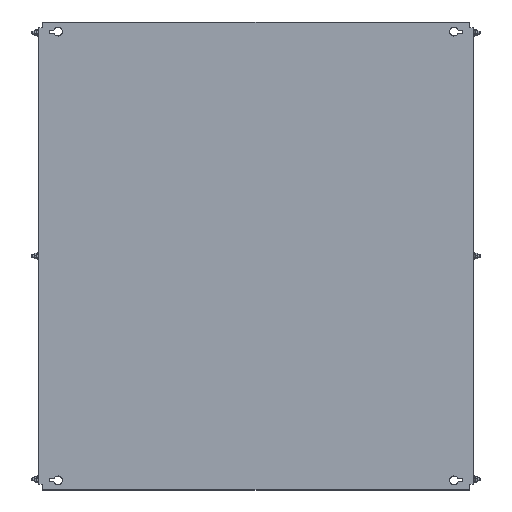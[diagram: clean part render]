
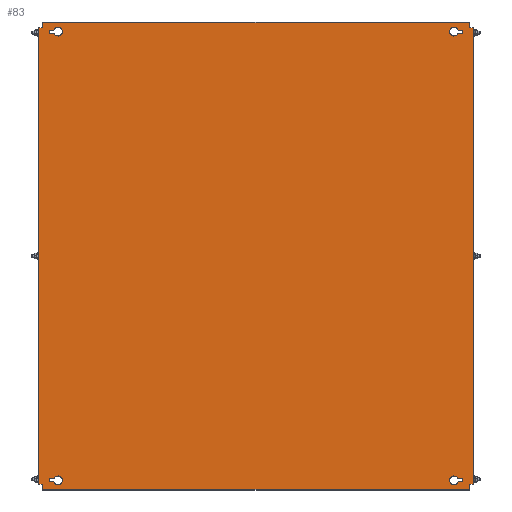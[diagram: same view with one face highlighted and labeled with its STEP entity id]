
A CAD part, top view. The second image highlights one B-rep face of the part: STEP entity #83.
In plain terms, the highlighted planar face has unit normal (0, 0, 1).
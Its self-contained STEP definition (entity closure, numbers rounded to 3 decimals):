
#83 = ADVANCED_FACE('',(#84,#119,#154,#316,#351),#386,.T.);
#84 = FACE_BOUND('',#85,.T.);
#85 = EDGE_LOOP('',(#86,#96,#104,#112));
#86 = ORIENTED_EDGE('',*,*,#87,.T.);
#87 = EDGE_CURVE('',#88,#90,#92,.T.);
#88 = VERTEX_POINT('',#89);
#89 = CARTESIAN_POINT('',(418.393,467.75,2.));
#90 = VERTEX_POINT('',#91);
#91 = CARTESIAN_POINT('',(428.,467.75,2.));
#92 = LINE('',#93,#94);
#93 = CARTESIAN_POINT('',(427.,467.75,2.));
#94 = VECTOR('',#95,1.);
#95 = DIRECTION('',(1.,0.,0.));
#96 = ORIENTED_EDGE('',*,*,#97,.T.);
#97 = EDGE_CURVE('',#90,#98,#100,.T.);
#98 = VERTEX_POINT('',#99);
#99 = CARTESIAN_POINT('',(428.,461.25,2.));
#100 = LINE('',#101,#102);
#101 = CARTESIAN_POINT('',(428.,467.75,2.));
#102 = VECTOR('',#103,1.);
#103 = DIRECTION('',(0.,-1.,0.));
#104 = ORIENTED_EDGE('',*,*,#105,.T.);
#105 = EDGE_CURVE('',#98,#106,#108,.T.);
#106 = VERTEX_POINT('',#107);
#107 = CARTESIAN_POINT('',(418.393,461.25,2.));
#108 = LINE('',#109,#110);
#109 = CARTESIAN_POINT('',(427.,461.25,2.));
#110 = VECTOR('',#111,1.);
#111 = DIRECTION('',(-1.,0.,0.));
#112 = ORIENTED_EDGE('',*,*,#113,.T.);
#113 = EDGE_CURVE('',#106,#88,#114,.T.);
#114 = CIRCLE('',#115,9.);
#115 = AXIS2_PLACEMENT_3D('',#116,#117,#118);
#116 = CARTESIAN_POINT('',(410.,464.5,2.));
#117 = DIRECTION('',(0.,0.,-1.));
#118 = DIRECTION('',(1.,0.,0.));
#119 = FACE_BOUND('',#120,.T.);
#120 = EDGE_LOOP('',(#121,#131,#139,#147));
#121 = ORIENTED_EDGE('',*,*,#122,.T.);
#122 = EDGE_CURVE('',#123,#125,#127,.T.);
#123 = VERTEX_POINT('',#124);
#124 = CARTESIAN_POINT('',(-418.393,-467.75,2.));
#125 = VERTEX_POINT('',#126);
#126 = CARTESIAN_POINT('',(-428.,-467.75,2.));
#127 = LINE('',#128,#129);
#128 = CARTESIAN_POINT('',(-427.,-467.75,2.));
#129 = VECTOR('',#130,1.);
#130 = DIRECTION('',(-1.,0.,0.));
#131 = ORIENTED_EDGE('',*,*,#132,.T.);
#132 = EDGE_CURVE('',#125,#133,#135,.T.);
#133 = VERTEX_POINT('',#134);
#134 = CARTESIAN_POINT('',(-428.,-461.25,2.));
#135 = LINE('',#136,#137);
#136 = CARTESIAN_POINT('',(-428.,-467.75,2.));
#137 = VECTOR('',#138,1.);
#138 = DIRECTION('',(0.,1.,0.));
#139 = ORIENTED_EDGE('',*,*,#140,.T.);
#140 = EDGE_CURVE('',#133,#141,#143,.T.);
#141 = VERTEX_POINT('',#142);
#142 = CARTESIAN_POINT('',(-418.393,-461.25,2.));
#143 = LINE('',#144,#145);
#144 = CARTESIAN_POINT('',(-427.,-461.25,2.));
#145 = VECTOR('',#146,1.);
#146 = DIRECTION('',(1.,-0.,-0.));
#147 = ORIENTED_EDGE('',*,*,#148,.T.);
#148 = EDGE_CURVE('',#141,#123,#149,.T.);
#149 = CIRCLE('',#150,9.);
#150 = AXIS2_PLACEMENT_3D('',#151,#152,#153);
#151 = CARTESIAN_POINT('',(-410.,-464.5,2.));
#152 = DIRECTION('',(0.,0.,-1.));
#153 = DIRECTION('',(-1.,0.,0.));
#154 = FACE_BOUND('',#155,.T.);
#155 = EDGE_LOOP('',(#156,#166,#174,#182,#190,#198,#206,#214,#222,#230,
    #238,#246,#254,#262,#270,#278,#286,#294,#302,#310));
#156 = ORIENTED_EDGE('',*,*,#157,.F.);
#157 = EDGE_CURVE('',#158,#160,#162,.T.);
#158 = VERTEX_POINT('',#159);
#159 = CARTESIAN_POINT('',(-447.4,472.5,2.));
#160 = VERTEX_POINT('',#161);
#161 = CARTESIAN_POINT('',(-442.,472.5,2.));
#162 = LINE('',#163,#164);
#163 = CARTESIAN_POINT('',(-448.,472.5,2.));
#164 = VECTOR('',#165,1.);
#165 = DIRECTION('',(1.,0.,-0.));
#166 = ORIENTED_EDGE('',*,*,#167,.T.);
#167 = EDGE_CURVE('',#158,#168,#170,.T.);
#168 = VERTEX_POINT('',#169);
#169 = CARTESIAN_POINT('',(-450.,472.5,2.));
#170 = LINE('',#171,#172);
#171 = CARTESIAN_POINT('',(-447.4,472.5,2.));
#172 = VECTOR('',#173,1.);
#173 = DIRECTION('',(-1.,0.,0.));
#174 = ORIENTED_EDGE('',*,*,#175,.F.);
#175 = EDGE_CURVE('',#176,#168,#178,.T.);
#176 = VERTEX_POINT('',#177);
#177 = CARTESIAN_POINT('',(-450.,-472.5,2.));
#178 = LINE('',#179,#180);
#179 = CARTESIAN_POINT('',(-450.,-482.5,2.));
#180 = VECTOR('',#181,1.);
#181 = DIRECTION('',(0.,1.,-0.));
#182 = ORIENTED_EDGE('',*,*,#183,.F.);
#183 = EDGE_CURVE('',#184,#176,#186,.T.);
#184 = VERTEX_POINT('',#185);
#185 = CARTESIAN_POINT('',(-447.4,-472.5,2.));
#186 = LINE('',#187,#188);
#187 = CARTESIAN_POINT('',(-442.,-472.5,2.));
#188 = VECTOR('',#189,1.);
#189 = DIRECTION('',(-1.,-0.,-0.));
#190 = ORIENTED_EDGE('',*,*,#191,.T.);
#191 = EDGE_CURVE('',#184,#192,#194,.T.);
#192 = VERTEX_POINT('',#193);
#193 = CARTESIAN_POINT('',(-442.,-472.5,2.));
#194 = LINE('',#195,#196);
#195 = CARTESIAN_POINT('',(-448.,-472.5,2.));
#196 = VECTOR('',#197,1.);
#197 = DIRECTION('',(1.,0.,-0.));
#198 = ORIENTED_EDGE('',*,*,#199,.T.);
#199 = EDGE_CURVE('',#192,#200,#202,.T.);
#200 = VERTEX_POINT('',#201);
#201 = CARTESIAN_POINT('',(-442.,-481.9,2.));
#202 = LINE('',#203,#204);
#203 = CARTESIAN_POINT('',(-442.,482.5,2.));
#204 = VECTOR('',#205,1.);
#205 = DIRECTION('',(0.,-1.,0.));
#206 = ORIENTED_EDGE('',*,*,#207,.T.);
#207 = EDGE_CURVE('',#200,#208,#210,.T.);
#208 = VERTEX_POINT('',#209);
#209 = CARTESIAN_POINT('',(-442.,-482.5,2.));
#210 = LINE('',#211,#212);
#211 = CARTESIAN_POINT('',(-442.,-481.9,2.));
#212 = VECTOR('',#213,1.);
#213 = DIRECTION('',(-0.,-1.,-0.));
#214 = ORIENTED_EDGE('',*,*,#215,.T.);
#215 = EDGE_CURVE('',#208,#216,#218,.T.);
#216 = VERTEX_POINT('',#217);
#217 = CARTESIAN_POINT('',(442.,-482.5,2.));
#218 = LINE('',#219,#220);
#219 = CARTESIAN_POINT('',(442.,-482.5,2.));
#220 = VECTOR('',#221,1.);
#221 = DIRECTION('',(1.,0.,0.));
#222 = ORIENTED_EDGE('',*,*,#223,.F.);
#223 = EDGE_CURVE('',#224,#216,#226,.T.);
#224 = VERTEX_POINT('',#225);
#225 = CARTESIAN_POINT('',(442.,-481.9,2.));
#226 = LINE('',#227,#228);
#227 = CARTESIAN_POINT('',(442.,-482.5,2.));
#228 = VECTOR('',#229,1.);
#229 = DIRECTION('',(0.,-1.,0.));
#230 = ORIENTED_EDGE('',*,*,#231,.T.);
#231 = EDGE_CURVE('',#224,#232,#234,.T.);
#232 = VERTEX_POINT('',#233);
#233 = CARTESIAN_POINT('',(442.,-472.5,2.));
#234 = LINE('',#235,#236);
#235 = CARTESIAN_POINT('',(442.,482.5,2.));
#236 = VECTOR('',#237,1.);
#237 = DIRECTION('',(0.,1.,-0.));
#238 = ORIENTED_EDGE('',*,*,#239,.F.);
#239 = EDGE_CURVE('',#240,#232,#242,.T.);
#240 = VERTEX_POINT('',#241);
#241 = CARTESIAN_POINT('',(447.4,-472.5,2.));
#242 = LINE('',#243,#244);
#243 = CARTESIAN_POINT('',(448.,-472.5,2.));
#244 = VECTOR('',#245,1.);
#245 = DIRECTION('',(-1.,0.,-0.));
#246 = ORIENTED_EDGE('',*,*,#247,.T.);
#247 = EDGE_CURVE('',#240,#248,#250,.T.);
#248 = VERTEX_POINT('',#249);
#249 = CARTESIAN_POINT('',(450.,-472.5,2.));
#250 = LINE('',#251,#252);
#251 = CARTESIAN_POINT('',(447.4,-472.5,2.));
#252 = VECTOR('',#253,1.);
#253 = DIRECTION('',(1.,-0.,0.));
#254 = ORIENTED_EDGE('',*,*,#255,.F.);
#255 = EDGE_CURVE('',#256,#248,#258,.T.);
#256 = VERTEX_POINT('',#257);
#257 = CARTESIAN_POINT('',(450.,472.5,2.));
#258 = LINE('',#259,#260);
#259 = CARTESIAN_POINT('',(450.,-482.5,2.));
#260 = VECTOR('',#261,1.);
#261 = DIRECTION('',(0.,-1.,-0.));
#262 = ORIENTED_EDGE('',*,*,#263,.F.);
#263 = EDGE_CURVE('',#264,#256,#266,.T.);
#264 = VERTEX_POINT('',#265);
#265 = CARTESIAN_POINT('',(447.4,472.5,2.));
#266 = LINE('',#267,#268);
#267 = CARTESIAN_POINT('',(-442.,472.5,2.));
#268 = VECTOR('',#269,1.);
#269 = DIRECTION('',(1.,-0.,0.));
#270 = ORIENTED_EDGE('',*,*,#271,.T.);
#271 = EDGE_CURVE('',#264,#272,#274,.T.);
#272 = VERTEX_POINT('',#273);
#273 = CARTESIAN_POINT('',(442.,472.5,2.));
#274 = LINE('',#275,#276);
#275 = CARTESIAN_POINT('',(448.,472.5,2.));
#276 = VECTOR('',#277,1.);
#277 = DIRECTION('',(-1.,0.,-0.));
#278 = ORIENTED_EDGE('',*,*,#279,.T.);
#279 = EDGE_CURVE('',#272,#280,#282,.T.);
#280 = VERTEX_POINT('',#281);
#281 = CARTESIAN_POINT('',(442.,481.9,2.));
#282 = LINE('',#283,#284);
#283 = CARTESIAN_POINT('',(442.,482.5,2.));
#284 = VECTOR('',#285,1.);
#285 = DIRECTION('',(0.,1.,-0.));
#286 = ORIENTED_EDGE('',*,*,#287,.T.);
#287 = EDGE_CURVE('',#280,#288,#290,.T.);
#288 = VERTEX_POINT('',#289);
#289 = CARTESIAN_POINT('',(442.,482.5,2.));
#290 = LINE('',#291,#292);
#291 = CARTESIAN_POINT('',(442.,481.9,2.));
#292 = VECTOR('',#293,1.);
#293 = DIRECTION('',(-0.,1.,-0.));
#294 = ORIENTED_EDGE('',*,*,#295,.T.);
#295 = EDGE_CURVE('',#288,#296,#298,.T.);
#296 = VERTEX_POINT('',#297);
#297 = CARTESIAN_POINT('',(-442.,482.5,2.));
#298 = LINE('',#299,#300);
#299 = CARTESIAN_POINT('',(-442.,482.5,2.));
#300 = VECTOR('',#301,1.);
#301 = DIRECTION('',(-1.,0.,0.));
#302 = ORIENTED_EDGE('',*,*,#303,.F.);
#303 = EDGE_CURVE('',#304,#296,#306,.T.);
#304 = VERTEX_POINT('',#305);
#305 = CARTESIAN_POINT('',(-442.,481.9,2.));
#306 = LINE('',#307,#308);
#307 = CARTESIAN_POINT('',(-442.,-482.5,2.));
#308 = VECTOR('',#309,1.);
#309 = DIRECTION('',(0.,1.,-0.));
#310 = ORIENTED_EDGE('',*,*,#311,.T.);
#311 = EDGE_CURVE('',#304,#160,#312,.T.);
#312 = LINE('',#313,#314);
#313 = CARTESIAN_POINT('',(-442.,482.5,2.));
#314 = VECTOR('',#315,1.);
#315 = DIRECTION('',(0.,-1.,0.));
#316 = FACE_BOUND('',#317,.T.);
#317 = EDGE_LOOP('',(#318,#328,#336,#344));
#318 = ORIENTED_EDGE('',*,*,#319,.F.);
#319 = EDGE_CURVE('',#320,#322,#324,.T.);
#320 = VERTEX_POINT('',#321);
#321 = CARTESIAN_POINT('',(428.,-461.25,2.));
#322 = VERTEX_POINT('',#323);
#323 = CARTESIAN_POINT('',(418.393,-461.25,2.));
#324 = LINE('',#325,#326);
#325 = CARTESIAN_POINT('',(418.393,-461.25,2.));
#326 = VECTOR('',#327,1.);
#327 = DIRECTION('',(-1.,0.,0.));
#328 = ORIENTED_EDGE('',*,*,#329,.F.);
#329 = EDGE_CURVE('',#330,#320,#332,.T.);
#330 = VERTEX_POINT('',#331);
#331 = CARTESIAN_POINT('',(428.,-467.75,2.));
#332 = LINE('',#333,#334);
#333 = CARTESIAN_POINT('',(428.,-461.25,2.));
#334 = VECTOR('',#335,1.);
#335 = DIRECTION('',(0.,1.,0.));
#336 = ORIENTED_EDGE('',*,*,#337,.F.);
#337 = EDGE_CURVE('',#338,#330,#340,.T.);
#338 = VERTEX_POINT('',#339);
#339 = CARTESIAN_POINT('',(418.393,-467.75,2.));
#340 = LINE('',#341,#342);
#341 = CARTESIAN_POINT('',(427.,-467.75,2.));
#342 = VECTOR('',#343,1.);
#343 = DIRECTION('',(1.,0.,0.));
#344 = ORIENTED_EDGE('',*,*,#345,.F.);
#345 = EDGE_CURVE('',#322,#338,#346,.T.);
#346 = CIRCLE('',#347,9.);
#347 = AXIS2_PLACEMENT_3D('',#348,#349,#350);
#348 = CARTESIAN_POINT('',(410.,-464.5,2.));
#349 = DIRECTION('',(0.,-0.,1.));
#350 = DIRECTION('',(1.,0.,0.));
#351 = FACE_BOUND('',#352,.T.);
#352 = EDGE_LOOP('',(#353,#363,#371,#379));
#353 = ORIENTED_EDGE('',*,*,#354,.F.);
#354 = EDGE_CURVE('',#355,#357,#359,.T.);
#355 = VERTEX_POINT('',#356);
#356 = CARTESIAN_POINT('',(-428.,461.25,2.));
#357 = VERTEX_POINT('',#358);
#358 = CARTESIAN_POINT('',(-418.393,461.25,2.));
#359 = LINE('',#360,#361);
#360 = CARTESIAN_POINT('',(-418.393,461.25,2.));
#361 = VECTOR('',#362,1.);
#362 = DIRECTION('',(1.,0.,0.));
#363 = ORIENTED_EDGE('',*,*,#364,.F.);
#364 = EDGE_CURVE('',#365,#355,#367,.T.);
#365 = VERTEX_POINT('',#366);
#366 = CARTESIAN_POINT('',(-428.,467.75,2.));
#367 = LINE('',#368,#369);
#368 = CARTESIAN_POINT('',(-428.,461.25,2.));
#369 = VECTOR('',#370,1.);
#370 = DIRECTION('',(0.,-1.,0.));
#371 = ORIENTED_EDGE('',*,*,#372,.F.);
#372 = EDGE_CURVE('',#373,#365,#375,.T.);
#373 = VERTEX_POINT('',#374);
#374 = CARTESIAN_POINT('',(-418.393,467.75,2.));
#375 = LINE('',#376,#377);
#376 = CARTESIAN_POINT('',(-427.,467.75,2.));
#377 = VECTOR('',#378,1.);
#378 = DIRECTION('',(-1.,0.,0.));
#379 = ORIENTED_EDGE('',*,*,#380,.F.);
#380 = EDGE_CURVE('',#357,#373,#381,.T.);
#381 = CIRCLE('',#382,9.);
#382 = AXIS2_PLACEMENT_3D('',#383,#384,#385);
#383 = CARTESIAN_POINT('',(-410.,464.5,2.));
#384 = DIRECTION('',(0.,-0.,1.));
#385 = DIRECTION('',(-1.,0.,0.));
#386 = PLANE('',#387);
#387 = AXIS2_PLACEMENT_3D('',#388,#389,#390);
#388 = CARTESIAN_POINT('',(-442.,-482.5,2.));
#389 = DIRECTION('',(-0.,0.,1.));
#390 = DIRECTION('',(1.,0.,0.));
